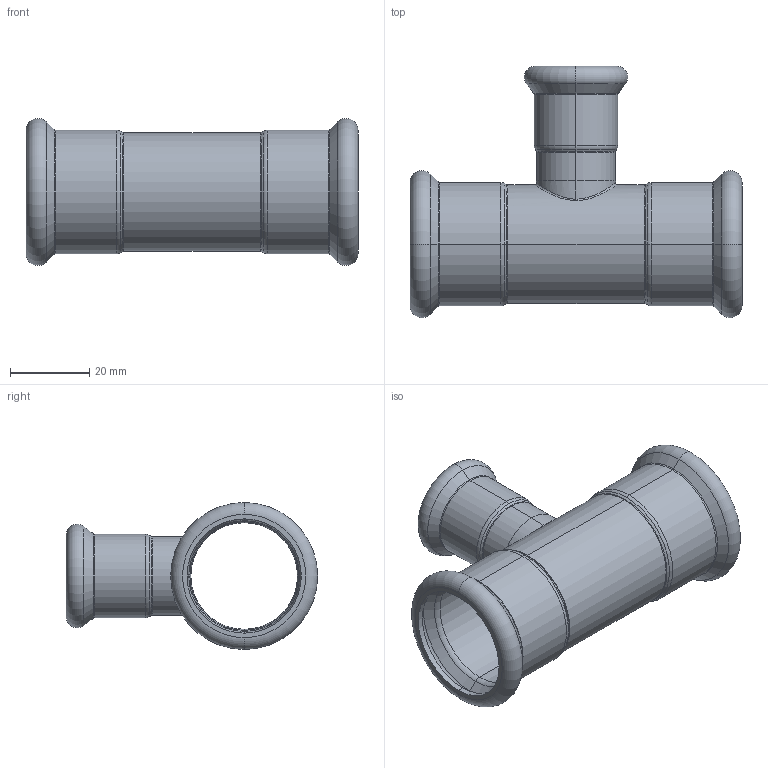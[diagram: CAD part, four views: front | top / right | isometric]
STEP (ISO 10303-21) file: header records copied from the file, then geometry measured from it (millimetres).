
FILE_DESCRIPTION (( 'STEP AP203' ), '1' );
FILE_NAME ('GDA5195.STEP', '2019-01-12T06:32:16', ( '' ), ( '' ), 'SwSTEP 2.0', 'SolidWorks 2015', '' );
FILE_SCHEMA (( 'CONFIG_CONTROL_DESIGN' ));
Length unit declared in the file: millimetre
Products named in the file (3): GDA5195; T(R)-¢ñ-28¡Á18''; T-ｉ-01-18
Assembly tree (2 placements, depth 2):
  GDA5195
    T(R)-¢ñ-28¡Á18''
    T-ｉ-01-18
Bounding box: 84 x 63.6 x 37.19 mm (x, y, z)
Volume: 15491.5 mm3; surface area: 21200.5 mm2
Topology: 2 solids, 2 shells, 114 faces, 234 edges, 128 vertices
Faces by surface type: torus 48, cylinder 30, cone 24, plane 8, bspline 4
Entity records: 4295 total; most frequent: CARTESIAN_POINT 1505, DIRECTION 620, ORIENTED_EDGE 468, AXIS2_PLACEMENT_3D 283, EDGE_CURVE 234, CIRCLE 168, VERTEX_POINT 128, EDGE_LOOP 124
